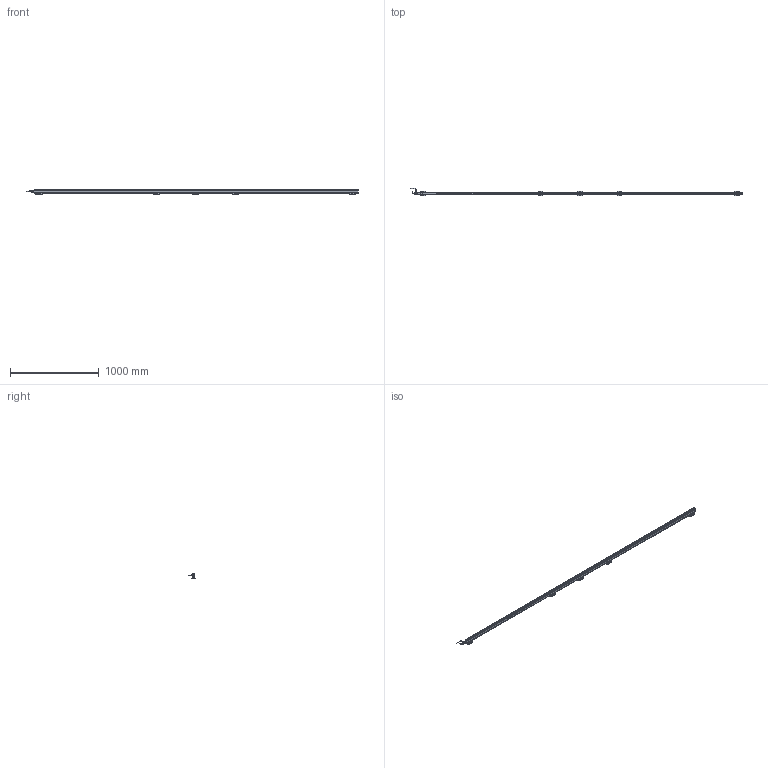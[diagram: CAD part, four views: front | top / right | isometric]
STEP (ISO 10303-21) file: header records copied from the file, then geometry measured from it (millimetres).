
FILE_DESCRIPTION(('Bauteilbeschreibung','HiCAD-Model','HiCAD-STEP-TRANSLATION','Bauteilbeschreibung'),'2;1');
FILE_NAME('PERFORMAXIQEASY_3570-3660_3D.STP','2014-03-05T13:23:38+00:00',('Konstrukteur'),('Konstrukteur Firma GmbH'),' HiCAD 2011, Step 1600.0 ','HiCAD 2011','confidential');
FILE_SCHEMA(('AUTOMOTIVE_DESIGN { 1 2 10303 214 0 1 1 1 }'));
Products named in the file (51): PERFORMAXIQEASY_3570_3660_3D; A_PERFORMAX IQ EASY 3570_3660; A_PERFORMAX IQ EASY SPEED; A_CAP DE; A_CAP CE_5; LED_2C_3MM; LED02C03MM; A519020315_CONNECTOR APPLIANCE; A_INSERT; A_CONTACTS; A_HOUSING; A_PROFILE; A_POTTING; PIN; PIN0; A532000100_BRACKET BARS_ MOUNT; A_SIDE PIECE; A0SIDE0PIECE; A_BRACKET SMALL; A_SLIDE PIECE; A5320001000BRACKET0BARS00MOUNT; A0SIDE0PIECE0; A0SIDE0PIECE1; A0BRACKET0SMALL; A0SLIDE0PIECE; A5320001000BRACKET0BARS00MOUNT0; A0SIDE0PIECE2; A0SIDE0PIECE3; A0BRACKET0SMALL0; A0SLIDE0PIECE0; A0SIDE0PIECE4; A0SIDE0PIECE5; A0BRACKET0SMALL1; A0SLIDE0PIECE1; A0SIDE0PIECE6; A0SIDE0PIECE7; A0BRACKET0SMALL2; A0SLIDE0PIECE2; A_CONNECTOR STRAIGHT; EXTRUDED SOLID_0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
Assembly tree (50 placements, depth 5):
  PERFORMAXIQEASY_3570_3660_3D
    A_PERFORMAX IQ EASY 3570_3660
      A_PERFORMAX IQ EASY SPEED
        A_CAP DE
        A_CAP CE_5
        LED_2C_3MM
        LED02C03MM
        A519020315_CONNECTOR APPLIANCE
          A_INSERT
          A_CONTACTS
          A_HOUSING
        A_PROFILE
        A_POTTING
        PIN
        PIN0
      A532000100_BRACKET BARS_ MOUNT
        A_SIDE PIECE
        A0SIDE0PIECE
        A_BRACKET SMALL
        A_SLIDE PIECE
      A5320001000BRACKET0BARS00MOUNT
        A0SIDE0PIECE0
        A0SIDE0PIECE1
        A0BRACKET0SMALL
        A0SLIDE0PIECE
      A5320001000BRACKET0BARS00MOUNT0
        A0SIDE0PIECE2
        A0SIDE0PIECE3
        A0BRACKET0SMALL0
        A0SLIDE0PIECE0
      A5320001000BRACKET0BARS00MOUNT0
        A0SIDE0PIECE4
        A0SIDE0PIECE5
        A0BRACKET0SMALL1
        A0SLIDE0PIECE1
      A5320001000BRACKET0BARS00MOUNT0
        A0SIDE0PIECE6
        A0SIDE0PIECE7
        A0BRACKET0SMALL2
        A0SLIDE0PIECE2
      A_CONNECTOR STRAIGHT
        EXTRUDED SOLID_0
        DRAAD GEBOGEN
        REVOLVED SOLID_1
        REVOLVED SOLID_3
      A_CONNECTOR ANGLED
        REVOLVED0SOLID01
        EXTRUDED0SOLID00
        C_EDGE SWEEP_0
        REVOLVED SOLID_2
        REVOLVED0SOLID03
Bounding box: 3737.89 x 84.26 x 63.13 mm (x, y, z)
Volume: 3757001.9 mm3; surface area: 903543.8 mm2
Topology: 45 solids, 45 shells, 4215 faces, 10820 edges, 6422 vertices
Faces by surface type: cylinder 1797, plane 1597, sphere 277, torus 252, bspline 208, cone 84
Full cylindrical faces by diameter (mm): 0.8 x10, 1 x5, 2.387 x10, 3 x23, 3.1 x1, 4.2 x2, 5 x4, 5.5 x25, 8 x2, 8.2 x1, 8.4 x2, 8.945 x1, 9 x2, 10.2 x1, 10.5 x3, 11 x1, 12 x3, 12.8 x1, 13.8 x4, 14.5 x3
Entity records: 195163 total; most frequent: CARTESIAN_POINT 45850, DIRECTION 20961, ORIENTED_EDGE 20534, EDGE_CURVE 10267, COLOUR_RGB 9750, PRESENTATION_STYLE_ASSIGNMENT 9750, OVER_RIDING_STYLED_ITEM 9710, CURVE_STYLE 9705
